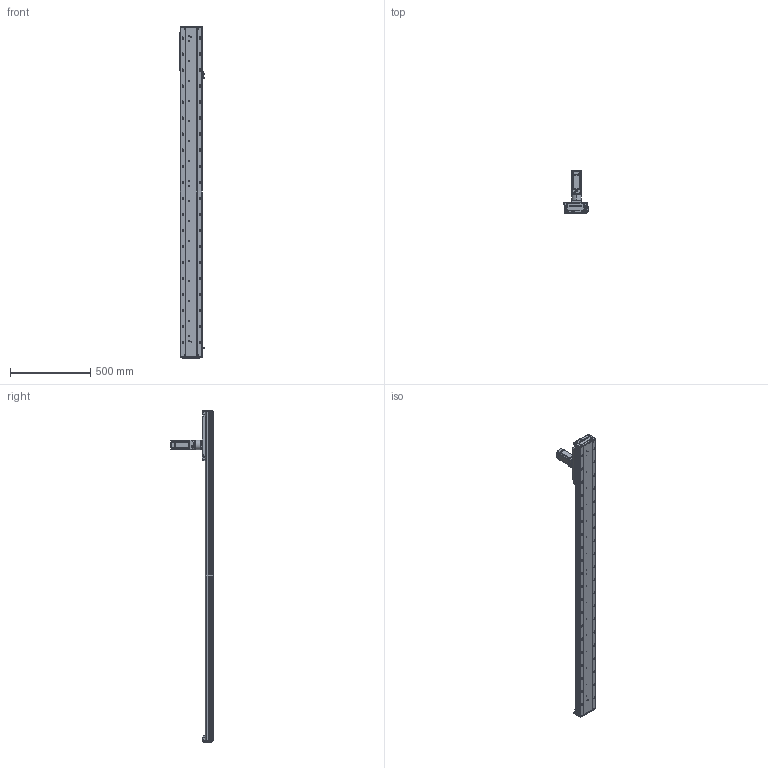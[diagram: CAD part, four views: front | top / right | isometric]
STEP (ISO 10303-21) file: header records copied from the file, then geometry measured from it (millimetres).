
FILE_DESCRIPTION (( 'STEP AP203' ), '1' );
FILE_NAME ('RY140-C-250-UK.SLDASM_1700.step', '2022-03-12T01:59:33', ( '' ), ( '' ), 'SwSTEP 2.0', 'SolidWorks 2016', '' );
FILE_SCHEMA (( 'CONFIG_CONTROL_DESIGN' ));
Length unit declared in the file: millimetre
Products named in the file (12): 60ZDF珨撰俋倛芞T1 200W M4; RY140-喘沭賑輸; RY140-喘沭裔啣; RY140-C-250-UK.SLDASM_1700; 覜茼ん672; RY120外置感应片(140共用）; 140蚥薯蝶輸; 絳寢賑輸EGH15; RY140-絳寢EGH15-300-MK_1700; 15; RY140-喘謫萇儂覃誹啣; RY140-300齿条模组型材底座_1700
Assembly tree (21 placements, depth 2):
  RY140-C-250-UK.SLDASM_1700
    RY140-300齿条模组型材底座_1700
    RY140-絳寢EGH15-300-MK_1700  x2
    絳寢賑輸EGH15  x6
    RY140-喘沭裔啣  x2
    覜茼ん672  x3
    RY140-喘沭賑輸
    RY120外置感应片(140共用）
    RY140-喘謫萇儂覃誹啣
    140蚥薯蝶輸  x2
    60ZDF珨撰俋倛芞T1 200W M4
    15
Bounding box: 153.7 x 263.5 x 2072 mm (x, y, z)
Volume: 6755316.4 mm3; surface area: 1830308.7 mm2
Topology: 21 solids, 21 shells, 3786 faces, 10138 edges, 6542 vertices
Faces by surface type: cylinder 1772, plane 1684, cone 284, bspline 46
Entity records: 87349 total; most frequent: CARTESIAN_POINT 19477, ORIENTED_EDGE 13850, DIRECTION 13829, EDGE_CURVE 6925, AXIS2_PLACEMENT_3D 4995, VERTEX_POINT 4535, VECTOR 3839, LINE 3839
